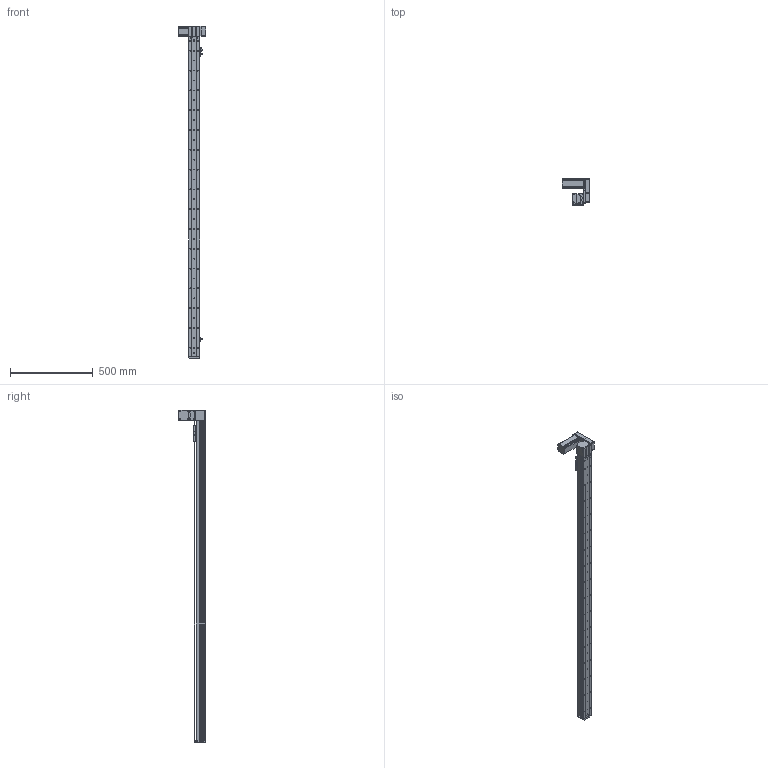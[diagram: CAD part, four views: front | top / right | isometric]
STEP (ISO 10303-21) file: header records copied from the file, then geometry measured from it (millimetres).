
FILE_DESCRIPTION (( 'STEP AP214' ), '1' );
FILE_NAME ('KSD68BS-S1750-MLU-CM.STEP', '2019-11-06T07:09:04', ( '微软用户' ), ( '微软中国' ), 'SwSTEP 2.0', 'SolidWorks 2014', '' );
FILE_SCHEMA (( 'AUTOMOTIVE_DESIGN' ));
Length unit declared in the file: millimetre
Products named in the file (11): KSD68BS 1750俴最裔啣圉猾敕; 覜茼え68遵圉猾敕; KSD68BS半封闭同步带传动导轨座; U倰嫖萇EEㄜSX672; 台达ECMA－C20604AS伺服电机（400W); KSD68BS 1750俴最菁啣圉猾敕; KSD68BS-S1750-MLU-CM; 悵誘欶奻狟殏; 68宽马达安装板连板上折同步带; 68宽单导轨半封闭同步带主动轮座左; 68单导轨同步带半封闭端板
Assembly tree (12 placements, depth 2):
  KSD68BS-S1750-MLU-CM
    KSD68BS 1750俴最菁啣圉猾敕
    台达ECMA－C20604AS伺服电机（400W)
    U倰嫖萇EEㄜSX672  x3
    KSD68BS半封闭同步带传动导轨座
    覜茼え68遵圉猾敕
    KSD68BS 1750俴最裔啣圉猾敕
    68单导轨同步带半封闭端板
    68宽单导轨半封闭同步带主动轮座左
    68宽马达安装板连板上折同步带
    悵誘欶奻狟殏
Bounding box: 167.2 x 159.5 x 2012 mm (x, y, z)
Volume: 3316288.9 mm3; surface area: 1241364.5 mm2
Topology: 13 solids, 13 shells, 1642 faces, 4828 edges, 3148 vertices
Faces by surface type: cylinder 874, plane 685, cone 83
Entity records: 64782 total; most frequent: CARTESIAN_POINT 13178, ORIENTED_EDGE 8408, DIRECTION 8096, EDGE_CURVE 4204, AXIS2_PLACEMENT_3D 2922, VERTEX_POINT 2772, LINE 2252, VECTOR 2252
